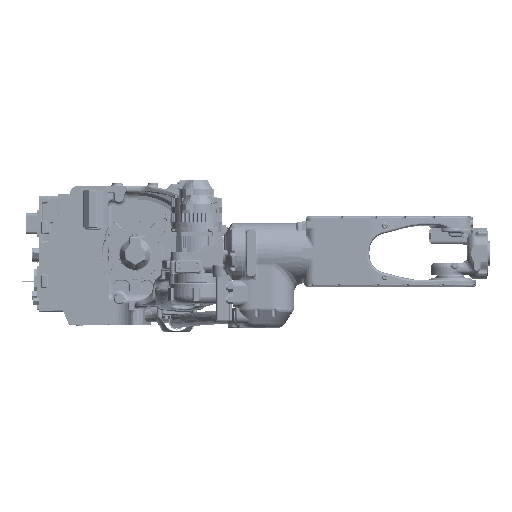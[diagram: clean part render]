
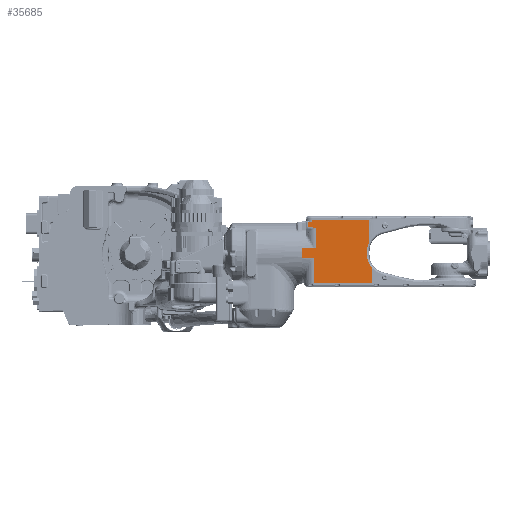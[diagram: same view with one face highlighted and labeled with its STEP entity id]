
A CAD part, top view. The second image highlights one B-rep face of the part: STEP entity #35685.
In plain terms, the highlighted planar face has unit normal (0, 0, 1).
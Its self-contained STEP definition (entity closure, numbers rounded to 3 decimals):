
#6063=PLANE('',#140975);
#20943=LINE('',#315154,#28316);
#20964=LINE('',#315571,#28337);
#20965=LINE('',#315573,#28338);
#20966=LINE('',#315576,#28339);
#20967=LINE('',#315578,#28340);
#20968=LINE('',#315580,#28341);
#20969=LINE('',#315582,#28342);
#20970=LINE('',#315594,#28343);
#20971=LINE('',#315596,#28344);
#20972=LINE('',#315598,#28345);
#20973=LINE('',#315600,#28346);
#20974=LINE('',#315618,#28347);
#20975=LINE('',#315631,#28348);
#20976=LINE('',#315633,#28349);
#28316=VECTOR('',#172818,1.);
#28337=VECTOR('',#172875,1.);
#28338=VECTOR('',#172878,1.);
#28339=VECTOR('',#172879,1.);
#28340=VECTOR('',#172880,1.);
#28341=VECTOR('',#172881,1.);
#28342=VECTOR('',#172882,1.);
#28343=VECTOR('',#172883,1.);
#28344=VECTOR('',#172884,1.);
#28345=VECTOR('',#172885,1.);
#28346=VECTOR('',#172886,1.);
#28347=VECTOR('',#172887,1.);
#28348=VECTOR('',#172888,1.);
#28349=VECTOR('',#172889,1.);
#35685=ADVANCED_FACE('',(#44783),#6063,.T.);
#44783=FACE_OUTER_BOUND('',#52594,.T.);
#52594=EDGE_LOOP('',(#90307,#90308,#90309,#90310,#90311,#90312,#90313,#90314,
#90315,#90316,#90317,#90318,#90319,#90320,#90321,#90322,#90323));
#57033=B_SPLINE_CURVE_WITH_KNOTS('',3,(#315584,#315585,#315586,#315587,
#315588,#315589,#315590,#315591,#315592),.UNSPECIFIED.,.F.,.F.,(4,1,1,1,
1,1,4),(0.,0.167,0.333,0.5,0.667,0.833,
1.),.UNSPECIFIED.);
#57034=B_SPLINE_CURVE_WITH_KNOTS('',3,(#315601,#315602,#315603,#315604,
#315605,#315606,#315607,#315608,#315609,#315610,#315611,#315612,#315613,
#315614,#315615,#315616),.UNSPECIFIED.,.F.,.F.,(4,1,1,1,1,1,1,1,1,1,1,1,
1,4),(0.,0.077,0.154,0.231,0.308,
0.385,0.462,0.538,0.615,0.692,
0.769,0.846,0.923,1.),.UNSPECIFIED.);
#57035=B_SPLINE_CURVE_WITH_KNOTS('',3,(#315620,#315621,#315622,#315623,
#315624,#315625,#315626,#315627,#315628,#315629),.UNSPECIFIED.,.F.,.F.,
(4,1,1,1,1,1,1,4),(0.,0.143,0.286,0.429,0.571,
0.714,0.857,1.),.UNSPECIFIED.);
#90307=ORIENTED_EDGE('',*,*,#125563,.T.);
#90308=ORIENTED_EDGE('',*,*,#125564,.F.);
#90309=ORIENTED_EDGE('',*,*,#125565,.T.);
#90310=ORIENTED_EDGE('',*,*,#125566,.T.);
#90311=ORIENTED_EDGE('',*,*,#125567,.T.);
#90312=ORIENTED_EDGE('',*,*,#125568,.T.);
#90313=ORIENTED_EDGE('',*,*,#125569,.T.);
#90314=ORIENTED_EDGE('',*,*,#125570,.T.);
#90315=ORIENTED_EDGE('',*,*,#125571,.F.);
#90316=ORIENTED_EDGE('',*,*,#125572,.T.);
#90317=ORIENTED_EDGE('',*,*,#125506,.F.);
#90318=ORIENTED_EDGE('',*,*,#125562,.F.);
#90319=ORIENTED_EDGE('',*,*,#125573,.F.);
#90320=ORIENTED_EDGE('',*,*,#125574,.F.);
#90321=ORIENTED_EDGE('',*,*,#125575,.F.);
#90322=ORIENTED_EDGE('',*,*,#125576,.T.);
#90323=ORIENTED_EDGE('',*,*,#125577,.T.);
#107330=VERTEX_POINT('',#315153);
#107331=VERTEX_POINT('',#315155);
#107381=VERTEX_POINT('',#315570);
#107382=VERTEX_POINT('',#315574);
#107383=VERTEX_POINT('',#315575);
#107384=VERTEX_POINT('',#315577);
#107385=VERTEX_POINT('',#315579);
#107386=VERTEX_POINT('',#315581);
#107387=VERTEX_POINT('',#315583);
#107388=VERTEX_POINT('',#315593);
#107389=VERTEX_POINT('',#315595);
#107390=VERTEX_POINT('',#315597);
#107391=VERTEX_POINT('',#315599);
#107392=VERTEX_POINT('',#315617);
#107393=VERTEX_POINT('',#315619);
#107394=VERTEX_POINT('',#315630);
#107395=VERTEX_POINT('',#315632);
#125506=EDGE_CURVE('',#107330,#107331,#20943,.T.);
#125562=EDGE_CURVE('',#107381,#107330,#20964,.T.);
#125563=EDGE_CURVE('',#107382,#107383,#20965,.T.);
#125564=EDGE_CURVE('',#107384,#107383,#20966,.T.);
#125565=EDGE_CURVE('',#107384,#107385,#20967,.T.);
#125566=EDGE_CURVE('',#107385,#107386,#20968,.T.);
#125567=EDGE_CURVE('',#107386,#107387,#20969,.T.);
#125568=EDGE_CURVE('',#107387,#107388,#57033,.T.);
#125569=EDGE_CURVE('',#107388,#107389,#20970,.T.);
#125570=EDGE_CURVE('',#107389,#107390,#20971,.T.);
#125571=EDGE_CURVE('',#107391,#107390,#20972,.T.);
#125572=EDGE_CURVE('',#107391,#107331,#20973,.T.);
#125573=EDGE_CURVE('',#107392,#107381,#57034,.T.);
#125574=EDGE_CURVE('',#107393,#107392,#20974,.T.);
#125575=EDGE_CURVE('',#107394,#107393,#57035,.T.);
#125576=EDGE_CURVE('',#107394,#107395,#20975,.T.);
#125577=EDGE_CURVE('',#107395,#107382,#20976,.T.);
#140975=AXIS2_PLACEMENT_3D('',#315634,#172890,#172891);
#172818=DIRECTION('',(-1.,0.,0.));
#172875=DIRECTION('',(0.,-1.,0.));
#172878=DIRECTION('',(0.,-1.,0.));
#172879=DIRECTION('',(1.,0.,0.));
#172880=DIRECTION('',(0.,-1.,0.));
#172881=DIRECTION('',(0.995,-0.104,0.));
#172882=DIRECTION('',(0.,-1.,0.));
#172883=DIRECTION('',(-1.,0.,0.));
#172884=DIRECTION('',(0.,-1.,0.));
#172885=DIRECTION('',(-1.,0.,0.));
#172886=DIRECTION('',(0.,-1.,0.));
#172887=DIRECTION('',(0.,-1.,0.));
#172888=DIRECTION('',(0.,1.,0.));
#172889=DIRECTION('',(-1.,0.,0.));
#172890=DIRECTION('',(0.,0.,1.));
#172891=DIRECTION('',(1.,0.,0.));
#315153=CARTESIAN_POINT('',(597.458,-73.5,1341.));
#315154=CARTESIAN_POINT('',(597.458,-73.5,1341.));
#315155=CARTESIAN_POINT('',(451.,-73.5,1341.));
#315570=CARTESIAN_POINT('',(597.458,-37.097,1341.));
#315571=CARTESIAN_POINT('',(597.458,-37.097,1341.));
#315573=CARTESIAN_POINT('',(445.,83.5,1341.));
#315574=CARTESIAN_POINT('',(445.,83.5,1341.));
#315575=CARTESIAN_POINT('',(445.,78.2,1341.));
#315576=CARTESIAN_POINT('',(435.18,78.2,1341.));
#315577=CARTESIAN_POINT('',(435.18,78.2,1341.));
#315578=CARTESIAN_POINT('',(435.18,78.2,1341.));
#315579=CARTESIAN_POINT('',(435.18,66.62,1341.));
#315580=CARTESIAN_POINT('',(435.18,66.62,1341.));
#315581=CARTESIAN_POINT('',(455.,64.543,1341.));
#315582=CARTESIAN_POINT('',(455.,64.543,1341.));
#315583=CARTESIAN_POINT('',(455.,13.077,1341.));
#315584=CARTESIAN_POINT('',(455.,13.077,1341.));
#315585=CARTESIAN_POINT('',(454.889,13.014,1341.));
#315586=CARTESIAN_POINT('',(454.657,12.895,1341.));
#315587=CARTESIAN_POINT('',(454.28,12.743,1341.));
#315588=CARTESIAN_POINT('',(453.87,12.619,1341.));
#315589=CARTESIAN_POINT('',(453.426,12.525,1341.));
#315590=CARTESIAN_POINT('',(452.942,12.465,1341.));
#315591=CARTESIAN_POINT('',(452.586,12.45,1341.));
#315592=CARTESIAN_POINT('',(452.4,12.45,1341.));
#315593=CARTESIAN_POINT('',(452.4,12.45,1341.));
#315594=CARTESIAN_POINT('',(452.4,12.45,1341.));
#315595=CARTESIAN_POINT('',(422.,12.45,1341.));
#315596=CARTESIAN_POINT('',(422.,12.45,1341.));
#315597=CARTESIAN_POINT('',(422.,-11.619,1341.));
#315598=CARTESIAN_POINT('',(451.,-11.619,1341.));
#315599=CARTESIAN_POINT('',(451.,-11.619,1341.));
#315600=CARTESIAN_POINT('',(451.,-11.619,1341.));
#315601=CARTESIAN_POINT('',(585.16,-4.261,1341.));
#315602=CARTESIAN_POINT('',(585.16,-5.181,1341.));
#315603=CARTESIAN_POINT('',(585.211,-7.017,1341.));
#315604=CARTESIAN_POINT('',(585.439,-9.766,1341.));
#315605=CARTESIAN_POINT('',(585.818,-12.497,1341.));
#315606=CARTESIAN_POINT('',(586.346,-15.203,1341.));
#315607=CARTESIAN_POINT('',(587.023,-17.875,1341.));
#315608=CARTESIAN_POINT('',(587.847,-20.506,1341.));
#315609=CARTESIAN_POINT('',(588.813,-23.088,1341.));
#315610=CARTESIAN_POINT('',(589.921,-25.612,1341.));
#315611=CARTESIAN_POINT('',(591.166,-28.072,1341.));
#315612=CARTESIAN_POINT('',(592.545,-30.459,1341.));
#315613=CARTESIAN_POINT('',(594.053,-32.766,1341.));
#315614=CARTESIAN_POINT('',(595.686,-34.987,1341.));
#315615=CARTESIAN_POINT('',(596.854,-36.404,1341.));
#315616=CARTESIAN_POINT('',(597.458,-37.097,1341.));
#315617=CARTESIAN_POINT('',(585.16,-4.261,1341.));
#315618=CARTESIAN_POINT('',(585.16,6.251,1341.));
#315619=CARTESIAN_POINT('',(585.16,6.251,1341.));
#315620=CARTESIAN_POINT('',(588.611,24.502,1341.));
#315621=CARTESIAN_POINT('',(588.286,23.673,1341.));
#315622=CARTESIAN_POINT('',(587.681,22.001,1341.));
#315623=CARTESIAN_POINT('',(586.908,19.445,1341.));
#315624=CARTESIAN_POINT('',(586.273,16.852,1341.));
#315625=CARTESIAN_POINT('',(585.777,14.229,1341.));
#315626=CARTESIAN_POINT('',(585.421,11.582,1341.));
#315627=CARTESIAN_POINT('',(585.208,8.92,1341.));
#315628=CARTESIAN_POINT('',(585.16,7.142,1341.));
#315629=CARTESIAN_POINT('',(585.16,6.251,1341.));
#315630=CARTESIAN_POINT('',(588.611,24.502,1341.));
#315631=CARTESIAN_POINT('',(588.611,24.502,1341.));
#315632=CARTESIAN_POINT('',(588.611,83.5,1341.));
#315633=CARTESIAN_POINT('',(588.611,83.5,1341.));
#315634=CARTESIAN_POINT('',(595.603,-84.2,1341.));
